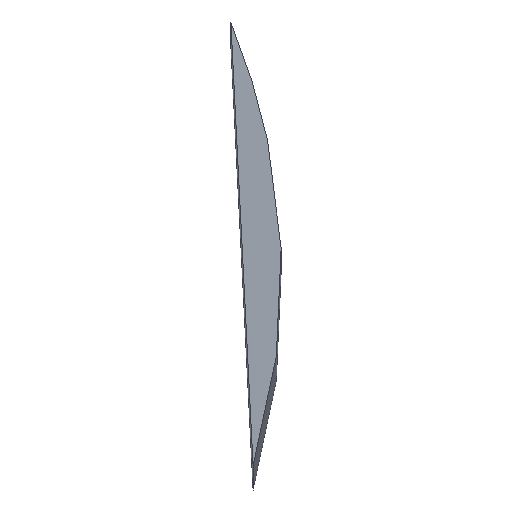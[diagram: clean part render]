
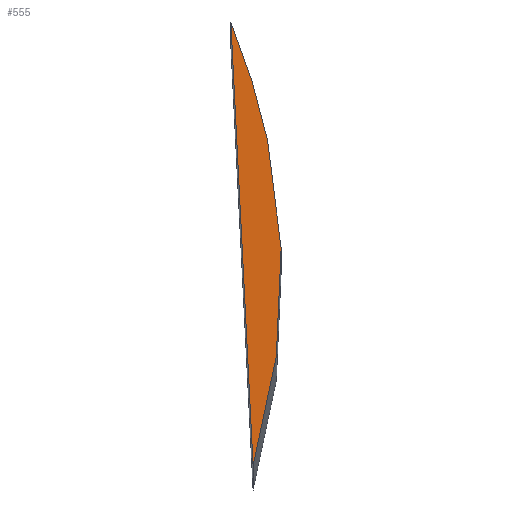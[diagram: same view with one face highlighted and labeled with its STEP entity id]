
A CAD part, top view. The second image highlights one B-rep face of the part: STEP entity #555.
In plain terms, the highlighted planar face has unit normal (0, 0, 1).
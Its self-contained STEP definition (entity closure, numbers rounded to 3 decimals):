
#2=DIRECTION('',(0.,0.,1.));
#3=DIRECTION('',(1.,0.,0.));
#6=DIRECTION('',(-0.05,0.999,0.));
#7=VECTOR('',#6,1.);
#11=AXIS2_PLACEMENT_3D('',#200,#2,#3);
#200=CARTESIAN_POINT('',(74.,0.,230.));
#201=CARTESIAN_POINT('',(74.74,2.492,230.));
#202=CARTESIAN_POINT('',(74.615,4.982,230.));
#218=CARTESIAN_POINT('',(73.63,7.388,230.));
#302=VERTEX_POINT('',#218);
#303=VERTEX_POINT('',#200);
#401=B_SPLINE_CURVE_WITH_KNOTS('',3,
(#200,#201,#202,#218),
.UNSPECIFIED.,.F.,.F.,
(4,4),
(0.,1.),
.UNSPECIFIED.);
#405=LINE('',#200,#7);
#502=EDGE_CURVE('',#303,#302,#401,.T.);
#505=EDGE_CURVE('',#303,#302,#405,.T.);
#550=ORIENTED_EDGE('',*,*,#502,.T.);
#551=ORIENTED_EDGE('',*,*,#505,.F.);
#552=EDGE_LOOP('',(#550,#551));
#553=FACE_OUTER_BOUND('',#552,.T.);
#554=PLANE('',#11);
#555=ADVANCED_FACE('',(#553),#554,.T.);
